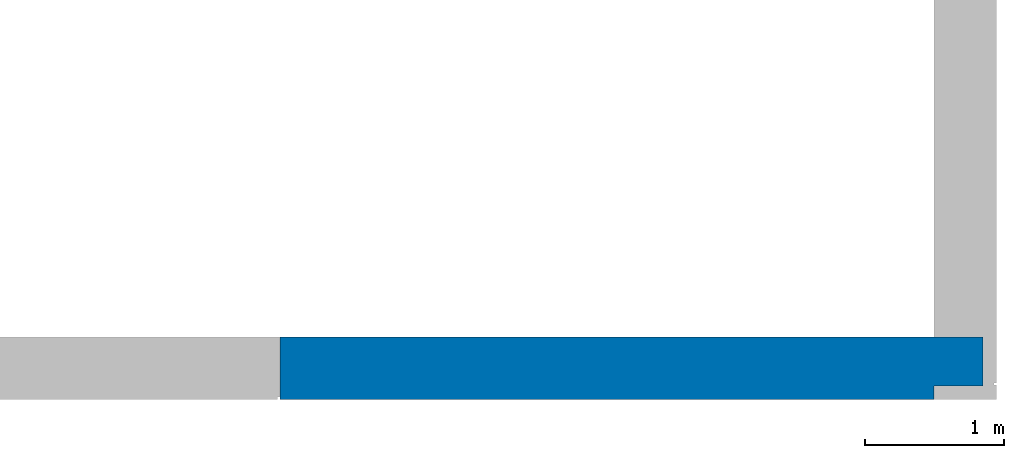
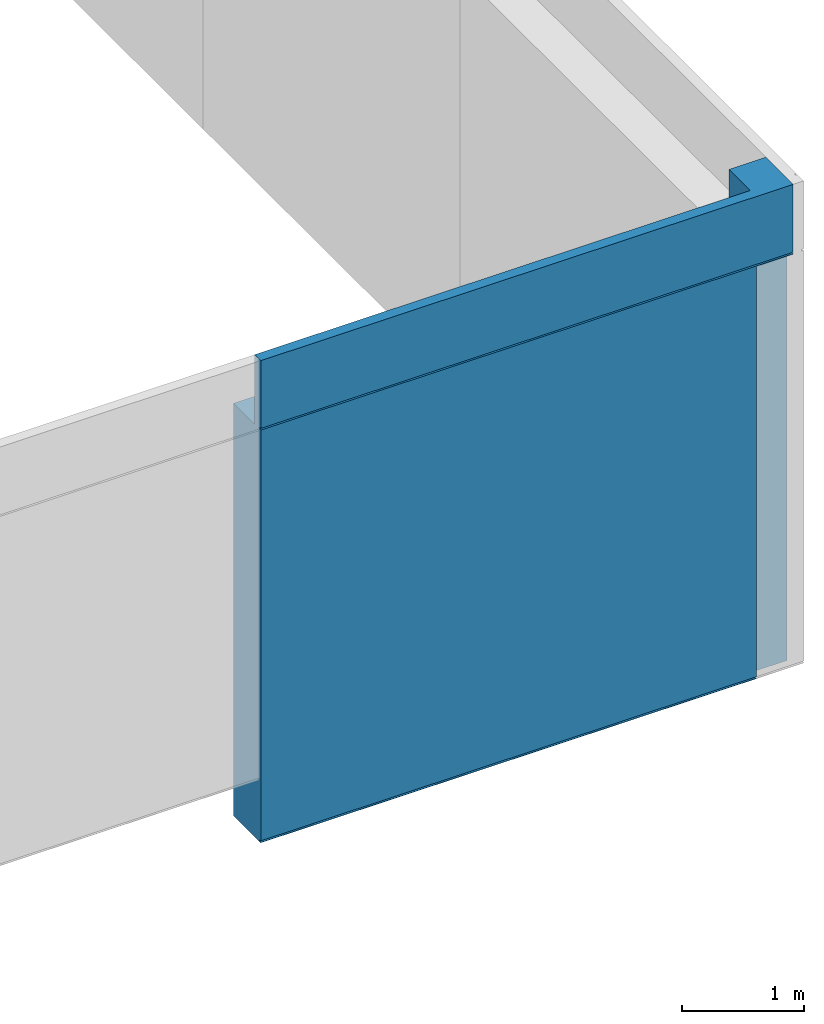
# One storey, part 17 of 33: 1 wall, 4 openings.
"""IFC2X3 building model written with IfcOpenShell, lengths in millimetres."""

from ifc_helpers import new_model, entity, si_unit, converted_unit, derived_unit, direction, frame, frame_2d, origin, place, context, subcontext, project, spatial, polyline, rectangle, extrude, clip, bounded_halfspace, faceted_brep, material, layer, layer_set, layer_usage, type_object, element, save


model = new_model("IFC2X3")

# Units and contexts
model_context = context("Model", 3, precision=0.01, world=origin(), true_north=direction((6.12303176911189e-17, 1.0)))
body_context = subcontext(model_context, "Body", "Model", "MODEL_VIEW")
ifc_project = project(units=[si_unit("LENGTHUNIT", "METRE", prefix="MILLI"), si_unit("AREAUNIT", "SQUARE_METRE"), si_unit("VOLUMEUNIT", "CUBIC_METRE"), converted_unit("PLANEANGLEUNIT", "DEGREE", entity("IfcRatioMeasure", 0.0174532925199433), si_unit("PLANEANGLEUNIT", "RADIAN"), dimensions=[0, 0, 0, 0, 0, 0, 0]), si_unit("MASSUNIT", "GRAM", prefix="KILO"), derived_unit("MASSDENSITYUNIT", [(si_unit("MASSUNIT", "GRAM", prefix="KILO"), 1), (si_unit("LENGTHUNIT", "METRE"), -3)]), si_unit("TIMEUNIT", "SECOND"), si_unit("FREQUENCYUNIT", "HERTZ"), si_unit("THERMODYNAMICTEMPERATUREUNIT", "DEGREE_CELSIUS"), derived_unit("THERMALTRANSMITTANCEUNIT", [(si_unit("MASSUNIT", "GRAM", prefix="KILO"), 1), (si_unit("THERMODYNAMICTEMPERATUREUNIT", "KELVIN"), -1), (si_unit("TIMEUNIT", "SECOND"), -3)]), derived_unit("VOLUMETRICFLOWRATEUNIT", [(si_unit("LENGTHUNIT", "METRE"), 3), (si_unit("TIMEUNIT", "SECOND"), -1)]), si_unit("ELECTRICCURRENTUNIT", "AMPERE"), si_unit("ELECTRICVOLTAGEUNIT", "VOLT"), si_unit("POWERUNIT", "WATT"), si_unit("FORCEUNIT", "NEWTON", prefix="KILO"), si_unit("ILLUMINANCEUNIT", "LUX"), si_unit("LUMINOUSFLUXUNIT", "LUMEN"), si_unit("LUMINOUSINTENSITYUNIT", "CANDELA"), derived_unit("USERDEFINED", [(si_unit("MASSUNIT", "GRAM", prefix="KILO"), -1), (si_unit("LENGTHUNIT", "METRE"), -2), (si_unit("TIMEUNIT", "SECOND"), 3), (si_unit("LUMINOUSFLUXUNIT", "LUMEN"), 1)]), derived_unit("LINEARVELOCITYUNIT", [(si_unit("LENGTHUNIT", "METRE"), 1), (si_unit("TIMEUNIT", "SECOND"), -1)]), si_unit("PRESSUREUNIT", "PASCAL"), derived_unit("USERDEFINED", [(si_unit("LENGTHUNIT", "METRE"), -2), (si_unit("MASSUNIT", "GRAM", prefix="KILO"), 1), (si_unit("TIMEUNIT", "SECOND"), -2)])], contexts=[model_context])

# Site, building, storey
site_placement = place(None, origin())
site = spatial("IfcSite", under=ifc_project, at=site_placement, Name="Default", CompositionType="ELEMENT")
building_placement = place(site_placement, origin())
building = spatial("IfcBuilding", under=site, at=building_placement, CompositionType="ELEMENT")
storey_placement = place(building_placement, frame((0.0, 0.0, 4000.0)))
storey = spatial("IfcBuildingStorey", under=building, at=storey_placement, Name="2. KORRUS", CompositionType="ELEMENT", Elevation=4000.0)

# Wall, openings
ifc_material_1 = material(Name="RECKLI 1 173 THUR by Polantis 2016-toon4")
ifc_layer_1 = layer(ifc_material_1, 100.0)
ifc_material_2 = material(Name="Soojusisolatsioon EPS")
ifc_layer_2 = layer(ifc_material_2, 200.0)
ifc_material_3 = material(Name="r/b")
ifc_layer_3 = layer(ifc_material_3, 150.0)
ifc_layer_set = layer_set([ifc_layer_1, ifc_layer_2, ifc_layer_3], Name="Basic Wall:VS-1_toon-a")
ifc_layer_usage = layer_usage(ifc_layer_set, "AXIS2", "NEGATIVE", 225.0)
wall_type = type_object("IfcWallType", Name="Basic Wall:VS-1_toon-a", PredefinedType="STANDARD", material=ifc_layer_set)
wall_placement = place(storey_placement, frame((39850.0, -225.0, -135.0), z_axis=(0.0, 0.0, 1.0), x_axis=(-1.0, 0.0, 0.0)))
wall = element("IfcWallStandardCase", 1, at=wall_placement, inside=storey, type_object=wall_type, material=ifc_layer_usage, Name="Basic Wall:VS-1_toon-a", ObjectType="Basic Wall:VS-1_toon-a", context=body_context, shape_type="Clipping", body=[
    clip(clip(extrude(rectangle(XDim=5050.0, YDim=450.0, at=frame_2d((2525.0, -2.8421709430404e-14), x_axis=(-1.0, 0.0))), origin(), (0.0, 0.0, 1.0), 4835.0), bounded_halfspace(frame((350.0, -225.0, 4135.0), z_axis=(0.0, 0.0, 1.0), x_axis=(0.0, 1.0, 0.0)), False, frame((350.0, -225.0, 4135.0)), polyline([(0.0, 0.0), (4700.0, 0.0), (4700.0, 350.0), (0.0, 350.0), (0.0, 0.0)]))), bounded_halfspace(frame((0.0, 225.0, 4135.0), z_axis=(0.0, 0.0, -1.0), x_axis=(1.0, 0.0, 0.0)), False, frame((0.0, 225.0, 4135.0)), polyline([(0.0, 0.0), (0.0, -100.0), (350.0, -100.0), (350.0, 0.0), (0.0, 0.0)]))),
])
opening_1_placement = place(wall_placement, origin())
element("IfcOpeningElement", 2, at=opening_1_placement, cuts=wall, Name="Basic Wall:VS-1_toon-a", ObjectType="Opening", context=body_context, shape_type="SweptSolid", body=[
    extrude(rectangle(XDim=4499.99999999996, YDim=3600.0, at=frame_2d((2.1600499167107e-12, 0.0), x_axis=(0.0, 1.0))), frame((6850.0, -1749.0, -1615.0), z_axis=(0.0, 1.0, 0.0), x_axis=(-1.0, 0.0, 0.0)), (0.0, 0.0, 1.0), 3048.0),
])
opening_2_placement = place(wall_placement, frame((40300.0, 225.0, 4.0)))
element("IfcOpeningElement", 3, at=opening_2_placement, cuts=wall, Name="Basic Wall:VS-1_toon-a", ObjectType="Opening", context=body_context, shape_type="Brep", body=[
    faceted_brep([(-11850.0, -20.0, 16.0), (-11850.0, 0.0, 16.0), (-11850.0, 0.0, 0.0), (-11850.0, -20.0, 0.0), (-4260.0, -20.0, 16.0), (-4260.0, -20.0, 0.0), (-4260.0, 0.0, 0.0), (-4260.0, 0.0, 16.0)], [[[0, 1, 2, 3]], [[4, 5, 6, 7]], [[1, 0, 4, 7]], [[2, 1, 7, 6]], [[3, 2, 6, 5]], [[0, 3, 5, 4]]]),
    faceted_brep([(-20.0, -28480.0, 16.0), (-20.0, -28480.0, 0.0), (0.0, -28500.0, 0.0), (0.0, -28500.0, 16.0), (-20.0, -23740.0, 16.0), (0.0, -23740.0, 16.0), (0.0, -23740.0, 0.0), (-20.0, -23740.0, 0.0)], [[[0, 1, 2, 3]], [[4, 5, 6, 7]], [[1, 0, 4, 7]], [[2, 1, 7, 6]], [[3, 2, 6, 5]], [[0, 3, 5, 4]]]),
    faceted_brep([(-10080.0, -22380.0517807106, 16.0), (-10100.0, -22400.0517807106, 16.0), (-10100.0, -22400.0517807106, 0.0), (-10080.0, -22380.0517807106, 0.0), (-15330.3475962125, -22380.0517807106, 16.0), (-15330.3475962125, -22380.0517807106, 0.0), (-15330.3475962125, -22400.0517807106, 0.0), (-15330.3475962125, -22400.0517807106, 16.0)], [[[0, 1, 2, 3]], [[4, 5, 6, 7]], [[1, 0, 4, 7]], [[2, 1, 7, 6]], [[3, 2, 6, 5]], [[0, 3, 5, 4]]]),
    faceted_brep([(-20.0, -28480.0, 16.0), (0.0, -28500.0, 16.0), (0.0, -28500.0, 0.0), (-20.0, -28480.0, 0.0), (-4360.0, -28480.0, 16.0), (-4360.0, -28480.0, 0.0), (-4360.0, -28500.0, 0.0), (-4360.0, -28500.0, 16.0)], [[[0, 1, 2, 3]], [[4, 5, 6, 7]], [[1, 0, 4, 7]], [[2, 1, 7, 6]], [[3, 2, 6, 5]], [[0, 3, 5, 4]]]),
    faceted_brep([(-40380.0, -20.0, 16.0), (-40400.0, 0.0, 16.0), (-40400.0, 0.0, 0.0), (-40380.0, -20.0, 0.0), (-35250.0, -20.0, 16.0), (-35250.0, -20.0, 0.0), (-35250.0, 0.0, 0.0), (-35250.0, 0.0, 16.0)], [[[0, 1, 2, 3]], [[4, 5, 6, 7]], [[1, 0, 4, 7]], [[2, 1, 7, 6]], [[3, 2, 6, 5]], [[0, 3, 5, 4]]]),
    faceted_brep([(-34420.1035702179, -22380.0517807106, 16.0), (-34420.1035702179, -22400.0517807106, 16.0), (-34420.1035702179, -22400.0517807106, 0.0), (-34420.1035702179, -22380.0517807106, 0.0), (-40380.0, -22380.0517807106, 16.0), (-40380.0, -22380.0517807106, 0.0), (-40400.0, -22400.0517807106, 0.0), (-40400.0, -22400.0517807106, 16.0)], [[[0, 1, 2, 3]], [[4, 5, 6, 7]], [[1, 0, 4, 7]], [[2, 1, 7, 6]], [[3, 2, 6, 5]], [[0, 3, 5, 4]]]),
    faceted_brep([(-29113.2161487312, -22380.0517807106, 16.0), (-29113.2161487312, -22400.0517807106, 16.0), (-29113.2161487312, -22400.0517807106, 0.0), (-29113.2161487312, -22380.0517807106, 0.0), (-34420.1035702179, -22380.0517807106, 16.0), (-34420.1035702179, -22380.0517807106, 0.0), (-34420.1035702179, -22400.0517807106, 0.0), (-34420.1035702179, -22400.0517807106, 16.0)], [[[0, 1, 2, 3]], [[4, 5, 6, 7]], [[1, 0, 4, 7]], [[2, 1, 7, 6]], [[3, 2, 6, 5]], [[0, 3, 5, 4]]]),
    faceted_brep([(-10080.0, -28480.0, 16.0), (-10100.0, -28500.0, 16.0), (-10100.0, -28500.0, 0.0), (-10080.0, -28480.0, 0.0), (-10080.0, -22380.0517807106, 16.0), (-10080.0, -22380.0517807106, 0.0), (-10100.0, -22400.0517807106, 0.0), (-10100.0, -22400.0517807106, 16.0)], [[[0, 1, 2, 3]], [[4, 5, 6, 7]], [[1, 0, 4, 7]], [[2, 1, 7, 6]], [[3, 2, 6, 5]], [[0, 3, 5, 4]]]),
    faceted_brep([(-4260.0, -20.0, 16.0), (-4260.0, 0.0, 16.0), (-4260.0, 0.0, 0.0), (-4260.0, -20.0, 0.0), (0.0, -20.0, 16.0), (0.0, -20.0, 0.0), (0.0, 0.0, 0.0), (0.0, 0.0, 16.0)], [[[0, 1, 2, 3]], [[4, 5, 6, 7]], [[1, 0, 4, 7]], [[2, 1, 7, 6]], [[3, 2, 6, 5]], [[0, 3, 5, 4]]]),
    faceted_brep([(-40380.0, -4865.0, 16.0), (-40400.0, -4865.0, 16.0), (-40400.0, -4865.0, 0.0), (-40380.0, -4865.0, 0.0), (-40380.0, -20.0, 16.0), (-40380.0, -20.0, 0.0), (-40400.0, 0.0, 0.0), (-40400.0, 0.0, 16.0)], [[[0, 1, 2, 3]], [[4, 5, 6, 7]], [[1, 0, 4, 7]], [[2, 1, 7, 6]], [[3, 2, 6, 5]], [[0, 3, 5, 4]]]),
    faceted_brep([(-40380.0, -9093.33000000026, 16.0), (-40400.0, -9093.33000000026, 16.0), (-40400.0, -9093.33000000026, 0.0), (-40380.0, -9093.33000000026, 0.0), (-40380.0, -4865.0, 16.0), (-40380.0, -4865.0, 0.0), (-40400.0, -4865.0, 0.0), (-40400.0, -4865.0, 16.0)], [[[0, 1, 2, 3]], [[4, 5, 6, 7]], [[1, 0, 4, 7]], [[2, 1, 7, 6]], [[3, 2, 6, 5]], [[0, 3, 5, 4]]]),
    faceted_brep([(-40380.0, -13210.0, 16.0), (-40400.0, -13210.0, 16.0), (-40400.0, -13210.0, 0.0), (-40380.0, -13210.0, 0.0), (-40380.0, -9093.33000000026, 16.0), (-40380.0, -9093.33000000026, 0.0), (-40400.0, -9093.33000000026, 0.0), (-40400.0, -9093.33000000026, 16.0)], [[[0, 1, 2, 3]], [[4, 5, 6, 7]], [[1, 0, 4, 7]], [[2, 1, 7, 6]], [[3, 2, 6, 5]], [[0, 3, 5, 4]]]),
    faceted_brep([(-40380.0, -16240.0, 16.0), (-40400.0, -16240.0, 16.0), (-40400.0, -16240.0, 0.0), (-40380.0, -16240.0, 0.0), (-40380.0, -13210.0, 16.0), (-40380.0, -13210.0, 0.0), (-40400.0, -13210.0, 0.0), (-40400.0, -13210.0, 16.0)], [[[0, 1, 2, 3]], [[4, 5, 6, 7]], [[1, 0, 4, 7]], [[2, 1, 7, 6]], [[3, 2, 6, 5]], [[0, 3, 5, 4]]]),
    faceted_brep([(-40380.0, -22380.0517807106, 16.0), (-40400.0, -22400.0517807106, 16.0), (-40400.0, -22400.0517807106, 0.0), (-40380.0, -22380.0517807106, 0.0), (-40380.0, -16240.0, 16.0), (-40380.0, -16240.0, 0.0), (-40400.0, -16240.0, 0.0), (-40400.0, -16240.0, 16.0)], [[[0, 1, 2, 3]], [[4, 5, 6, 7]], [[1, 0, 4, 7]], [[2, 1, 7, 6]], [[3, 2, 6, 5]], [[0, 3, 5, 4]]]),
    faceted_brep([(-22535.0, -22380.0517807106, 16.0), (-22535.0, -22400.0517807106, 16.0), (-22535.0, -22400.0517807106, 0.0), (-22535.0, -22380.0517807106, 0.0), (-29113.2161487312, -22380.0517807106, 16.0), (-29113.2161487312, -22380.0517807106, 0.0), (-29113.2161487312, -22400.0517807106, 0.0), (-29113.2161487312, -22400.0517807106, 16.0)], [[[0, 1, 2, 3]], [[4, 5, 6, 7]], [[1, 0, 4, 7]], [[2, 1, 7, 6]], [[3, 2, 6, 5]], [[0, 3, 5, 4]]]),
    faceted_brep([(-18703.3528910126, -22380.0517807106, 16.0), (-18703.3528910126, -22400.0517807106, 16.0), (-18703.3528910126, -22400.0517807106, 0.0), (-18703.3528910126, -22380.0517807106, 0.0), (-22535.0, -22380.0517807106, 16.0), (-22535.0, -22380.0517807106, 0.0), (-22535.0, -22400.0517807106, 0.0), (-22535.0, -22400.0517807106, 16.0)], [[[0, 1, 2, 3]], [[4, 5, 6, 7]], [[1, 0, 4, 7]], [[2, 1, 7, 6]], [[3, 2, 6, 5]], [[0, 3, 5, 4]]]),
    faceted_brep([(-15330.3475962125, -22380.0517807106, 16.0), (-15330.3475962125, -22400.0517807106, 16.0), (-15330.3475962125, -22400.0517807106, 0.0), (-15330.3475962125, -22380.0517807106, 0.0), (-18703.3528910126, -22380.0517807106, 16.0), (-18703.3528910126, -22380.0517807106, 0.0), (-18703.3528910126, -22400.0517807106, 0.0), (-18703.3528910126, -22400.0517807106, 16.0)], [[[0, 1, 2, 3]], [[4, 5, 6, 7]], [[1, 0, 4, 7]], [[2, 1, 7, 6]], [[3, 2, 6, 5]], [[0, 3, 5, 4]]]),
    faceted_brep([(-4360.0, -28480.0, 16.0), (-4360.0, -28500.0, 16.0), (-4360.0, -28500.0, 0.0), (-4360.0, -28480.0, 0.0), (-10080.0, -28480.0, 16.0), (-10080.0, -28480.0, 0.0), (-10100.0, -28500.0, 0.0), (-10100.0, -28500.0, 16.0)], [[[0, 1, 2, 3]], [[4, 5, 6, 7]], [[1, 0, 4, 7]], [[2, 1, 7, 6]], [[3, 2, 6, 5]], [[0, 3, 5, 4]]]),
    faceted_brep([(-20.0, -23740.0, 16.0), (-20.0, -23740.0, 0.0), (0.0, -23740.0, 0.0), (0.0, -23740.0, 16.0), (-20.0, -16890.0006972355, 16.0), (0.0, -16890.0006972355, 16.0), (0.0, -16890.0006972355, 0.0), (-20.0, -16890.0006972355, 0.0)], [[[0, 1, 2, 3]], [[4, 5, 6, 7]], [[1, 0, 4, 7]], [[2, 1, 7, 6]], [[3, 2, 6, 5]], [[0, 3, 5, 4]]]),
    faceted_brep([(-20.0, -16890.0006972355, 16.0), (-20.0, -16890.0006972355, 0.0), (0.0, -16890.0006972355, 0.0), (0.0, -16890.0006972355, 16.0), (-20.0, -13460.0, 16.0), (0.0, -13460.0, 16.0), (0.0, -13460.0, 0.0), (-20.0, -13460.0, 0.0)], [[[0, 1, 2, 3]], [[4, 5, 6, 7]], [[1, 0, 4, 7]], [[2, 1, 7, 6]], [[3, 2, 6, 5]], [[0, 3, 5, 4]]]),
])
opening_3_placement = place(wall_placement, origin())
element("IfcOpeningElement", 4, at=opening_3_placement, cuts=wall, Name="Basic Wall:VS-1_toon-a", ObjectType="Recess", context=body_context, shape_type="SweptSolid", body=[
    extrude(rectangle(XDim=16.0000000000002, YDim=4790.0, at=frame_2d((0.0, 2.70450328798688e-13), x_axis=(0.0, 1.0))), frame((7445.0, 205.0, 647.0), z_axis=(0.0, 1.0, 0.0), x_axis=(1.0, 0.0, 0.0)), (0.0, 0.0, 1.0), 20.0000000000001),
    extrude(rectangle(XDim=16.0000000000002, YDim=4110.0, at=frame_2d((-1.13686837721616e-12, 2.70450328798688e-13), x_axis=(0.0, 1.0))), frame((26395.0, 205.0, 647.0), z_axis=(0.0, 1.0, 0.0), x_axis=(1.0, 0.0, 0.0)), (0.0, 0.0, 1.0), 19.9999999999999),
    extrude(rectangle(XDim=16.0000000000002, YDim=4600.0, at=frame_2d((1.13686837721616e-12, 2.70450328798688e-13), x_axis=(0.0, 1.0))), frame((22040.0, 205.0, 647.0), z_axis=(0.0, 1.0, 0.0), x_axis=(1.0, 0.0, 0.0)), (0.0, 0.0, 1.0), 20.0),
    extrude(rectangle(XDim=16.0000000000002, YDim=4600.0, at=frame_2d((2.27373675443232e-12, 2.70450328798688e-13), x_axis=(0.0, 1.0))), frame((17440.0, 205.0, 647.0), z_axis=(0.0, 1.0, 0.0), x_axis=(1.0, 0.0, 0.0)), (0.0, 0.0, 1.0), 20.0),
    extrude(rectangle(XDim=16.0000000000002, YDim=5299.99999999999, at=frame_2d((-2.04636307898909e-12, 2.70450328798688e-13), x_axis=(0.0, 1.0))), frame((12490.0, 205.0, 647.0), z_axis=(0.0, 1.0, 0.0), x_axis=(1.0, 0.0, 0.0)), (0.0, 0.0, 1.0), 20.0),
])
opening_4_placement = place(wall_placement, origin())
element("IfcOpeningElement", 5, at=opening_4_placement, cuts=wall, Name="Basic Wall:VS-1_toon-a", ObjectType="Opening", context=body_context, shape_type="SweptSolid", body=[
    extrude(rectangle(XDim=15.9999999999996, YDim=7590.0, at=frame_2d((0.0, 5.40900657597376e-13), x_axis=(0.0, 1.0))), frame((32245.0, 205.0, 4147.0), z_axis=(0.0, 1.0, 0.0), x_axis=(1.0, 0.0, 0.0)), (0.0, 0.0, 1.0), 20.0),
    extrude(rectangle(XDim=15.9999999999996, YDim=20.0, at=frame_2d((-3.37507799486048e-14, 5.40900657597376e-13), x_axis=(0.0, 1.0))), frame((40290.0, -28175.0, 4147.0), z_axis=(0.0, 1.0, 0.0), x_axis=(1.0, 0.0, 0.0)), (0.0, 0.0, 1.0), 4660.0),
    extrude(rectangle(XDim=15.9999999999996, YDim=5230.3475962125, at=frame_2d((1.13686837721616e-12, -5.40900657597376e-13), x_axis=(0.0, 1.0))), frame((27584.8262018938, -22175.0517807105, 4147.0), z_axis=(0.0, 1.0, 0.0), x_axis=(-1.0, 0.0, 0.0)), (0.0, 0.0, 1.0), 19.9999999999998),
    extrude(rectangle(XDim=15.9999999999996, YDim=4360.0, at=frame_2d((0.0, -5.40900657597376e-13), x_axis=(0.0, 1.0))), frame((38120.0, -28275.0, 4147.0), z_axis=(0.0, 1.0, 0.0), x_axis=(-1.0, 0.0, 0.0)), (0.0, 0.0, 1.0), 19.9999999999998),
    extrude(rectangle(XDim=15.9999999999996, YDim=5050.0, at=frame_2d((2.27373675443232e-12, 0.0), x_axis=(0.0, 1.0))), frame((2525.0, 205.0, 4147.0), z_axis=(0.0, 1.0, 0.0), x_axis=(1.0, 0.0, 0.0)), (0.0, 0.0, 1.0), 20.0),
    extrude(rectangle(XDim=15.9999999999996, YDim=5979.89642978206, at=frame_2d((-2.27373675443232e-12, 0.0), x_axis=(0.0, 1.0))), frame((2889.94821489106, -22175.0517807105, 4147.0), z_axis=(0.0, 1.0, 0.0), x_axis=(-1.0, 0.0, 0.0)), (0.0, 0.0, 1.0), 19.9999999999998),
    extrude(rectangle(XDim=15.9999999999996, YDim=5306.88742148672, at=frame_2d((2.04636307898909e-12, -5.40900657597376e-13), x_axis=(0.0, 1.0))), frame((8533.34014052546, -22175.0517807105, 4147.0), z_axis=(0.0, 1.0, 0.0), x_axis=(-1.0, 0.0, 0.0)), (0.0, 0.0, 1.0), 19.9999999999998),
    extrude(rectangle(XDim=15.9999999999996, YDim=19.9999999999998, at=frame_2d((-5.40900657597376e-13, 0.0), x_axis=(1.0, 0.0))), frame((30210.0, -28175.0, 4147.0), z_axis=(0.0, 1.0, 0.0), x_axis=(0.0, 0.0, -1.0)), (0.0, 0.0, 1.0), 6099.94821928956),
    extrude(rectangle(XDim=15.9999999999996, YDim=4160.00000000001, at=frame_2d((0.0, 5.40900657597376e-13), x_axis=(0.0, 1.0))), frame((38120.0, 205.0, 4147.0), z_axis=(0.0, 1.0, 0.0), x_axis=(1.0, 0.0, 0.0)), (0.0, 0.0, 1.0), 20.0),
    extrude(rectangle(XDim=15.9999999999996, YDim=20.0000000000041, at=frame_2d((5.40900657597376e-13, -4.33164615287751e-12), x_axis=(1.0, 0.0))), frame((-90.0, -4640.0, 4147.0), z_axis=(0.0, 1.0, 0.0), x_axis=(0.0, 0.0, -1.0)), (0.0, 0.0, 1.0), 4865.0),
    extrude(rectangle(XDim=15.9999999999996, YDim=20.0000000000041, at=frame_2d((5.40900657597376e-13, -4.33164615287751e-12), x_axis=(1.0, 0.0))), frame((-90.0, -8868.33000000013, 4147.0), z_axis=(0.0, 1.0, 0.0), x_axis=(0.0, 0.0, -1.0)), (0.0, 0.0, 1.0), 4228.33000000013),
    extrude(rectangle(XDim=15.9999999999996, YDim=20.0000000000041, at=frame_2d((5.40900657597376e-13, -4.33164615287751e-12), x_axis=(1.0, 0.0))), frame((-90.0, -13105.0, 4147.0), z_axis=(0.0, 1.0, 0.0), x_axis=(0.0, 0.0, -1.0)), (0.0, 0.0, 1.0), 4236.66999997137),
    extrude(rectangle(XDim=15.9999999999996, YDim=20.0000000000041, at=frame_2d((5.40900657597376e-13, -4.33164615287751e-12), x_axis=(1.0, 0.0))), frame((-90.0, -16015.0, 4147.0), z_axis=(0.0, 1.0, 0.0), x_axis=(0.0, 0.0, -1.0)), (0.0, 0.0, 1.0), 2910.00000002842),
    extrude(rectangle(XDim=15.9999999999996, YDim=20.0000000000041, at=frame_2d((-5.40900657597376e-13, 4.33164615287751e-12), x_axis=(1.0, 0.0))), frame((-90.0, -22075.0517807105, 4147.0), z_axis=(0.0, 1.0, 0.0), x_axis=(0.0, 0.0, -1.0)), (0.0, 0.0, 1.0), 6060.05178071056),
    extrude(rectangle(XDim=15.9999999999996, YDim=3831.64710898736, at=frame_2d((2.1600499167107e-12, -5.40900657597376e-13), x_axis=(0.0, 1.0))), frame((19680.8235544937, -22175.0517807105, 4147.0), z_axis=(0.0, 1.0, 0.0), x_axis=(-1.0, 0.0, 0.0)), (0.0, 0.0, 1.0), 19.9999999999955),
    extrude(rectangle(XDim=15.9999999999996, YDim=3373.00529480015, at=frame_2d((0.0, -5.40900657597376e-13), x_axis=(0.0, 1.0))), frame((23283.1497563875, -22175.0517807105, 4147.0), z_axis=(0.0, 1.0, 0.0), x_axis=(-1.0, 0.0, 0.0)), (0.0, 0.0, 1.0), 19.9999999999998),
    extrude(rectangle(XDim=15.9999999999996, YDim=5739.99999999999, at=frame_2d((-2.27373675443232e-13, -5.40900657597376e-13), x_axis=(0.0, 1.0))), frame((33070.0, -28275.0, 4147.0), z_axis=(0.0, 1.0, 0.0), x_axis=(-1.0, 0.0, 0.0)), (0.0, 0.0, 1.0), 19.9999999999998),
    extrude(rectangle(XDim=15.9999999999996, YDim=20.0, at=frame_2d((3.37507799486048e-14, 5.40900657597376e-13), x_axis=(0.0, 1.0))), frame((40290.0, -23515.0, 4147.0), z_axis=(0.0, 1.0, 0.0), x_axis=(1.0, 0.0, 0.0)), (0.0, 0.0, 1.0), 6849.99930276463),
    extrude(rectangle(XDim=15.9999999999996, YDim=20.0, at=frame_2d((-3.37507799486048e-14, 5.40900657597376e-13), x_axis=(0.0, 1.0))), frame((40290.0, -16665.0006972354, 4147.0), z_axis=(0.0, 1.0, 0.0), x_axis=(1.0, 0.0, 0.0)), (0.0, 0.0, 1.0), 3430.00069726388),
    extrude(rectangle(XDim=15.9999999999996, YDim=6578.21614873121, at=frame_2d((0.0, -5.40900657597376e-13), x_axis=(0.0, 1.0))), frame((14475.8919256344, -22175.0517807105, 4147.0), z_axis=(0.0, 1.0, 0.0), x_axis=(-1.0, 0.0, 0.0)), (0.0, 0.0, 1.0), 19.9999999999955),
    extrude(rectangle(XDim=15.9999999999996, YDim=4110.00000000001, at=frame_2d((0.0, 5.40900657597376e-13), x_axis=(0.0, 1.0))), frame((26395.0, 205.0, 4147.0), z_axis=(0.0, 1.0, 0.0), x_axis=(1.0, 0.0, 0.0)), (0.0, 0.0, 1.0), 19.9999999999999),
    extrude(rectangle(XDim=15.9999999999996, YDim=4600.0, at=frame_2d((1.13686837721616e-12, 5.40900657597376e-13), x_axis=(0.0, 1.0))), frame((22040.0, 205.0, 4147.0), z_axis=(0.0, 1.0, 0.0), x_axis=(1.0, 0.0, 0.0)), (0.0, 0.0, 1.0), 20.0),
    extrude(rectangle(XDim=15.9999999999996, YDim=4600.0, at=frame_2d((2.27373675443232e-12, 5.40900657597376e-13), x_axis=(0.0, 1.0))), frame((17440.0, 205.0, 4147.0), z_axis=(0.0, 1.0, 0.0), x_axis=(1.0, 0.0, 0.0)), (0.0, 0.0, 1.0), 20.0),
    extrude(rectangle(XDim=15.9999999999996, YDim=5299.99999999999, at=frame_2d((-2.04636307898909e-12, 5.40900657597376e-13), x_axis=(0.0, 1.0))), frame((12490.0, 205.0, 4147.0), z_axis=(0.0, 1.0, 0.0), x_axis=(1.0, 0.0, 0.0)), (0.0, 0.0, 1.0), 20.0),
    extrude(rectangle(XDim=15.9999999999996, YDim=4790.0, at=frame_2d((0.0, 5.40900657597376e-13), x_axis=(0.0, 1.0))), frame((7445.0, 205.0, 4147.0), z_axis=(0.0, 1.0, 0.0), x_axis=(1.0, 0.0, 0.0)), (0.0, 0.0, 1.0), 20.0000000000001),
    extrude(rectangle(XDim=15.9999999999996, YDim=20.0, at=frame_2d((3.37507799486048e-14, 5.40900657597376e-13), x_axis=(0.0, 1.0))), frame((40290.0, -13235.0, 4147.0), z_axis=(0.0, 1.0, 0.0), x_axis=(1.0, 0.0, 0.0)), (0.0, 0.0, 1.0), 4724.85920481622),
    extrude(rectangle(XDim=15.9999999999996, YDim=20.0, at=frame_2d((-3.37507799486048e-14, 5.40900657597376e-13), x_axis=(0.0, 1.0))), frame((40290.0, -8510.1407951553, 4147.0), z_axis=(0.0, 1.0, 0.0), x_axis=(1.0, 0.0, 0.0)), (0.0, 0.0, 1.0), 8735.1407951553),
])

save(model, "model.ifc")
